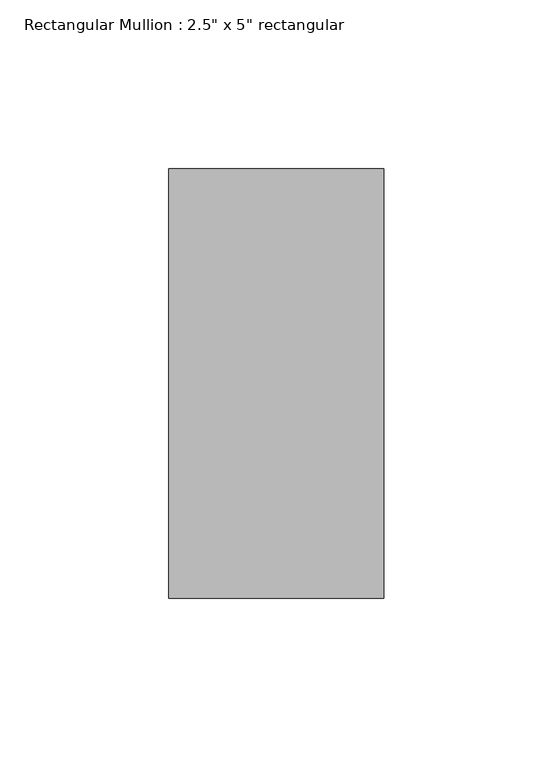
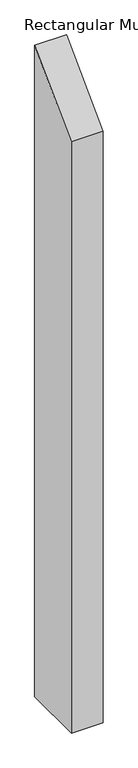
"""IFC4 building model written with IfcOpenShell, lengths in millimetres: member geometry."""

from ifc_helpers import new_model, si_unit, frame, origin, place, context, project, spatial, polyline, outline, extrude, source, transform, mapped, element, save


def member_3564f4e9(model_context):
    return source(origin(), model_context, "Body", "SweptSolid", [
        extrude(outline(polyline([(-63.5, -63.5), (63.5, 63.5), (63.5, -1314.45), (-63.5, -1314.45), (-63.5, -63.5)])), frame((-63.5, 0.0, 0.0), z_axis=(1.0, 0.0, 0.0), x_axis=(0.0, 1.0, 0.0)), (0.0, 0.0, 1.0), 63.5),
    ])


if __name__ == "__main__":
    model = new_model("IFC4")
    model_context = context("Model", 3, world=origin())
    ifc_project = project(units=[si_unit("LENGTHUNIT", "METRE", prefix="MILLI")], contexts=[model_context])
    site = spatial("IfcSite", under=ifc_project)
    building = spatial("IfcBuilding", under=site)
    placement = place(None, origin())
    member_shape = member_3564f4e9(model_context)
    element("IfcMember", 1, ObjectType="Rectangular Mullion : 2.5\" x 5\" rectangular", at=placement, inside=building, context=model_context, shape_type="MappedRepresentation", body=[
        mapped(member_shape, transform((0.0, 0.0, 0.0), x_axis=(1.0, 0.0, 0.0), y_axis=(0.0, 1.0, 0.0), z_axis=(0.0, 0.0, 1.0))),
    ])
    save(model, "model.ifc")
